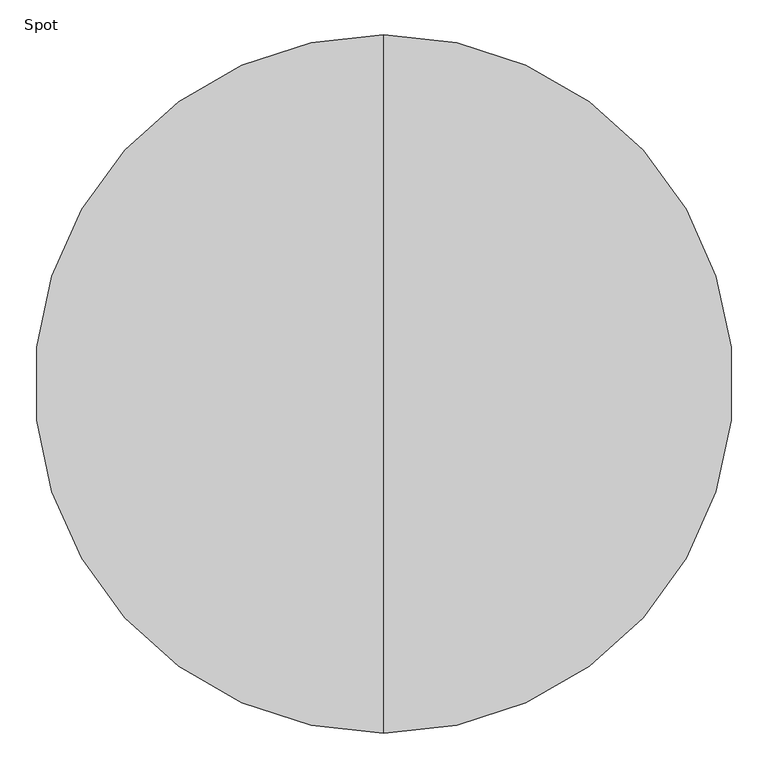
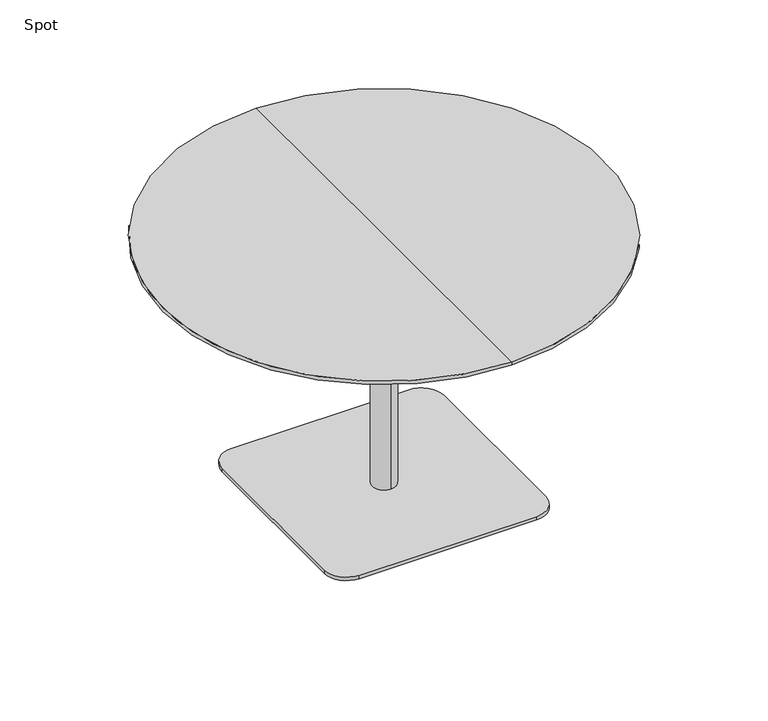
"""IFC4 building model written with IfcOpenShell, lengths in millimetres: furniture geometry, Spot : ø120x72s."""

from ifc_helpers import new_model, si_unit, point, frame, frame_2d, origin, origin_with_axes, place, context, project, spatial, polyline, circle_curve, trimmed, segment, composite_curve, outline, extrude, source, transform, mapped, element, save
from ifc_brep_helpers import plane_surface, cylinder_surface, revolved_surface, advanced_brep


def spot_1583ca4d(model_context):
    return source(origin(), model_context, "Body", "SolidModel", [
        advanced_brep(
        [(0.0, -600.0, 720.0), (0.0, 600.0, 720.0), (0.0, 0.0, 720.0), (0.0, 600.0, 710.25), (0.0, -600.0, 710.25), (0.0, 0.0, 698.0), (0.0, -554.2823776, 698.0), (0.0, 554.2823776, 698.0)],
        [
            (0, 1, circle_curve(frame((0.0, 0.0, 720.0), z_axis=(0.0, 0.0, 1.0), x_axis=(0.0, -1.0, 0.0)), 600.0)),
            (1, 2),
            (2, 0),
            (3, 4, circle_curve(frame((0.0, 0.0, 710.25), z_axis=(0.0, 0.0, 1.0), x_axis=(0.0, -1.0, 0.0)), 600.0)),
            (4, 0),
            (0, 1, circle_curve(frame((0.0, 0.0, 720.0), z_axis=(0.0, 0.0, -1.0), x_axis=(0.0, -1.0, 0.0)), 600.0)),
            (1, 3),
            (5, 6),
            (6, 7, circle_curve(frame((0.0, 0.0, 698.0), z_axis=(0.0, 0.0, -1.0), x_axis=(0.0, -1.0, 0.0)), 554.2823776)),
            (7, 5),
            (7, 6, circle_curve(frame((0.0, 0.0, 698.0), z_axis=(0.0, 0.0, -1.0), x_axis=(0.0, -1.0, 0.0)), 554.2823776)),
            (4, 3, circle_curve(frame((0.0, 0.0, 710.25), z_axis=(0.0, 0.0, 1.0), x_axis=(0.0, -1.0, 0.0)), 600.0)),
            (6, 4),
            (3, 7),
        ],
        [
            plane_surface(frame((0.0, 0.0, 720.0), z_axis=(0.0, 0.0, 1.0), x_axis=(0.0, -1.0, 0.0))),
            cylinder_surface(frame((0.0, 0.0, 800.0), z_axis=(0.0, 0.0, -1.0), x_axis=(0.0, -1.0, 0.0)), 600.0),
            plane_surface(frame((0.0, 0.0, 698.0), z_axis=(0.0, 0.0, -1.0), x_axis=(0.0, -1.0, 0.0))),
            revolved_surface(polyline([(0.0, -600.0, 710.25), (0.0, -554.2823776, 698.0)]), (0.0, 0.0, 800.0), (0.0, 0.0, -1.0)),
        ],
        [
            (0, [[1, 2, 3]]),
            (1, [[4, 5, 6, 7]]),
            (2, [[8, 9, 10]]),
            (2, [[-10, 11, -8]]),
            (0, [[-6, -3, -2]]),
            (1, [[12, -7, -1, -5]]),
            (3, [[-9, 13, -4, 14]]),
            (3, [[-11, -14, -12, -13]]),
        ],
    ),
        extrude(outline(composite_curve([segment(trimmed(circle_curve(frame_2d((240.0, 240.0)), 60.0), [point((240.0, 300.0))], [point((300.0, 240.0))], False, "CARTESIAN"), True, "CONTINUOUS"), segment(polyline([(300.0, 240.0), (300.0, -240.0)]), True, "CONTINUOUS"), segment(trimmed(circle_curve(frame_2d((240.0, -240.0)), 60.0), [point((300.0, -240.0))], [point((240.0, -300.0))], False, "CARTESIAN"), True, "CONTINUOUS"), segment(polyline([(240.0, -300.0), (-240.0, -300.0)]), True, "CONTINUOUS"), segment(trimmed(circle_curve(frame_2d((-240.0, -240.0)), 60.0), [point((-240.0, -300.0))], [point((-300.0, -240.0))], False, "CARTESIAN"), True, "CONTINUOUS"), segment(polyline([(-300.0, -240.0), (-300.0, 240.0)]), True, "CONTINUOUS"), segment(trimmed(circle_curve(frame_2d((-240.0, 240.0)), 60.0), [point((-300.0, 240.0))], [point((-240.0, 300.0))], False, "CARTESIAN"), True, "CONTINUOUS"), segment(polyline([(-240.0, 300.0), (240.0, 300.0)]), True, "CONTINUOUS")], self_intersect=False)), origin_with_axes(), (0.0, 0.0, 1.0), 10.0),
        advanced_brep(
        [(0.0, 32.0, 10.0), (0.0, -32.0, 10.0), (0.0, -32.0, 667.406916), (0.0, 32.0, 667.406916), (0.0, 0.0, 10.0), (0.0, 150.0, 698.0), (0.0, -150.0, 698.0), (0.0, 0.0, 698.0), (0.0, 150.0, 686.7213673), (0.0, -150.0, 686.7213673)],
        [
            (0, 1, circle_curve(frame((0.0, 0.0, 10.0), z_axis=(0.0, 0.0, 1.0), x_axis=(0.0, -1.0, 0.0)), 32.0)),
            (1, 2),
            (2, 3, circle_curve(frame((0.0, 0.0, 667.406916), z_axis=(0.0, 0.0, -1.0), x_axis=(0.0, -1.0, 0.0)), 32.0)),
            (3, 0),
            (1, 0, circle_curve(frame((0.0, 0.0, 10.0), z_axis=(0.0, 0.0, 1.0), x_axis=(0.0, -1.0, 0.0)), 32.0)),
            (3, 2, circle_curve(frame((0.0, 0.0, 667.406916), z_axis=(0.0, 0.0, -1.0), x_axis=(0.0, -1.0, 0.0)), 32.0)),
            (4, 1),
            (0, 4),
            (5, 6, circle_curve(frame((0.0, 0.0, 698.0), z_axis=(0.0, 0.0, 1.0), x_axis=(0.0, -1.0, 0.0)), 150.0)),
            (6, 7),
            (7, 5),
            (6, 5, circle_curve(frame((0.0, 0.0, 698.0), z_axis=(0.0, 0.0, 1.0), x_axis=(0.0, -1.0, 0.0)), 150.0)),
            (8, 9, circle_curve(frame((0.0, 0.0, 686.7213673), z_axis=(0.0, 0.0, 1.0), x_axis=(0.0, -1.0, 0.0)), 150.0)),
            (9, 6),
            (5, 8),
            (9, 8, circle_curve(frame((0.0, 0.0, 686.7213673), z_axis=(0.0, 0.0, 1.0), x_axis=(0.0, -1.0, 0.0)), 150.0)),
            (2, 9),
            (8, 3),
        ],
        [
            cylinder_surface(frame((0.0, 0.0, 1060.0), z_axis=(0.0, 0.0, -1.0), x_axis=(0.0, -1.0, 0.0)), 32.0),
            plane_surface(frame((0.0, 0.0, 10.0), z_axis=(0.0, 0.0, -1.0), x_axis=(0.0, -1.0, 0.0))),
            plane_surface(frame((0.0, 0.0, 698.0), z_axis=(0.0, 0.0, 1.0), x_axis=(0.0, -1.0, 0.0))),
            cylinder_surface(frame((0.0, 0.0, 1060.0), z_axis=(0.0, 0.0, -1.0), x_axis=(0.0, -1.0, 0.0)), 150.0),
            revolved_surface(polyline([(0.0, -150.0, 686.7213673), (0.0, -32.0, 667.406916)]), (0.0, 0.0, 1060.0), (0.0, 0.0, -1.0)),
        ],
        [
            (0, [[1, 2, 3, 4]]),
            (0, [[5, -4, 6, -2]]),
            (1, [[7, -1, 8]]),
            (1, [[-8, -5, -7]]),
            (2, [[9, 10, 11]]),
            (2, [[12, -11, -10]]),
            (3, [[13, 14, -9, 15]]),
            (3, [[16, -15, -12, -14]]),
            (4, [[-3, 17, -13, 18]]),
            (4, [[-6, -18, -16, -17]]),
        ],
    ),
        extrude(outline(polyline([(0.0, 0.0), (-20.0, 0.0), (-20.0, 20.0), (0.0, 20.0), (0.0, 0.0)])), origin_with_axes(), (0.0, 0.0, 1.0), 10.0),
    ])


if __name__ == "__main__":
    model = new_model("IFC4")
    model_context = context("Model", 3, world=origin())
    ifc_project = project(units=[si_unit("LENGTHUNIT", "METRE", prefix="MILLI")], contexts=[model_context])
    site = spatial("IfcSite", under=ifc_project)
    building = spatial("IfcBuilding", under=site)
    placement = place(None, origin())
    spot_shape = spot_1583ca4d(model_context)
    element("IfcFurniture", 1, ObjectType="Spot : ø120x72s", at=placement, inside=building, context=model_context, shape_type="MappedRepresentation", body=[
        mapped(spot_shape, transform((0.0, 0.0, 0.0), x_axis=(1.0, 0.0, 0.0), y_axis=(0.0, 1.0, 0.0), z_axis=(0.0, 0.0, 1.0))),
    ])
    save(model, "model.ifc")
